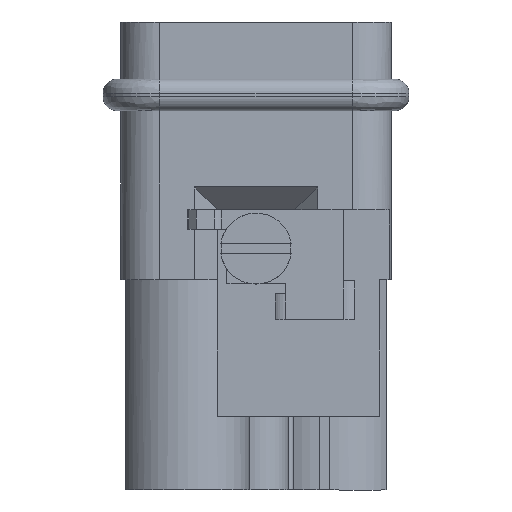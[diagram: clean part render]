
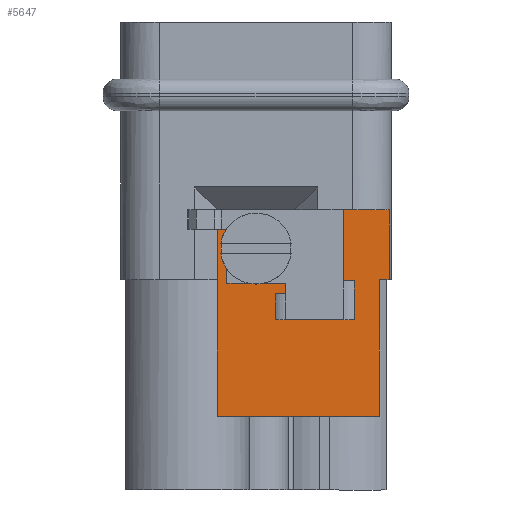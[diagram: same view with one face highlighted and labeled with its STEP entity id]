
A CAD part, left-side view. The second image highlights one B-rep face of the part: STEP entity #5647.
In plain terms, the highlighted planar face has unit normal (-1, 0, 0).
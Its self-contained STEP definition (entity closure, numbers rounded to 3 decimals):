
#3180=FACE_OUTER_BOUND('',#6586,.T.);
#3596=PLANE('',#12832);
#3892=LINE('',#16142,#4702);
#3926=LINE('',#16298,#4736);
#4167=LINE('',#17485,#4977);
#4168=LINE('',#17488,#4978);
#4169=LINE('',#17490,#4979);
#4170=LINE('',#17491,#4980);
#4171=LINE('',#17493,#4981);
#4172=LINE('',#17495,#4982);
#4173=LINE('',#17497,#4983);
#4174=LINE('',#17499,#4984);
#4175=LINE('',#17500,#4985);
#4176=LINE('',#17502,#4986);
#4177=LINE('',#17509,#4987);
#4178=LINE('',#17516,#4988);
#4179=LINE('',#17518,#4989);
#4702=VECTOR('',#13376,1.);
#4736=VECTOR('',#13458,1.);
#4977=VECTOR('',#14177,1.);
#4978=VECTOR('',#14178,1.);
#4979=VECTOR('',#14179,1.);
#4980=VECTOR('',#14180,1.);
#4981=VECTOR('',#14181,1.);
#4982=VECTOR('',#14182,1.);
#4983=VECTOR('',#14183,1.);
#4984=VECTOR('',#14184,1.);
#4985=VECTOR('',#14185,1.);
#4986=VECTOR('',#14186,1.);
#4987=VECTOR('',#14187,1.);
#4988=VECTOR('',#14188,1.);
#4989=VECTOR('',#14189,1.);
#5647=ADVANCED_FACE('',(#3180),#3596,.F.);
#6586=EDGE_LOOP('',(#8041,#8042,#8043,#8044,#8045,#8046,#8047,#8048,#8049,
#8050,#8051,#8052,#8053,#8054,#8055,#8056,#8057,#8058,#8059));
#8041=ORIENTED_EDGE('',*,*,#11130,.T.);
#8042=ORIENTED_EDGE('',*,*,#11131,.T.);
#8043=ORIENTED_EDGE('',*,*,#11132,.F.);
#8044=ORIENTED_EDGE('',*,*,#11124,.F.);
#8045=ORIENTED_EDGE('',*,*,#11121,.F.);
#8046=ORIENTED_EDGE('',*,*,#11133,.F.);
#8047=ORIENTED_EDGE('',*,*,#11134,.F.);
#8048=ORIENTED_EDGE('',*,*,#11135,.F.);
#8049=ORIENTED_EDGE('',*,*,#11136,.F.);
#8050=ORIENTED_EDGE('',*,*,#11137,.F.);
#8051=ORIENTED_EDGE('',*,*,#10718,.F.);
#8052=ORIENTED_EDGE('',*,*,#10661,.F.);
#8053=ORIENTED_EDGE('',*,*,#11138,.T.);
#8054=ORIENTED_EDGE('',*,*,#11139,.T.);
#8055=ORIENTED_EDGE('',*,*,#11140,.T.);
#8056=ORIENTED_EDGE('',*,*,#11141,.T.);
#8057=ORIENTED_EDGE('',*,*,#11142,.T.);
#8058=ORIENTED_EDGE('',*,*,#11143,.F.);
#8059=ORIENTED_EDGE('',*,*,#11144,.T.);
#9771=VERTEX_POINT('',#16141);
#9772=VERTEX_POINT('',#16143);
#9821=VERTEX_POINT('',#16299);
#10088=VERTEX_POINT('',#17456);
#10089=VERTEX_POINT('',#17461);
#10091=VERTEX_POINT('',#17475);
#10094=VERTEX_POINT('',#17486);
#10095=VERTEX_POINT('',#17487);
#10096=VERTEX_POINT('',#17489);
#10097=VERTEX_POINT('',#17492);
#10098=VERTEX_POINT('',#17494);
#10099=VERTEX_POINT('',#17496);
#10100=VERTEX_POINT('',#17498);
#10101=VERTEX_POINT('',#17501);
#10102=VERTEX_POINT('',#17503);
#10103=VERTEX_POINT('',#17508);
#10104=VERTEX_POINT('',#17510);
#10105=VERTEX_POINT('',#17515);
#10106=VERTEX_POINT('',#17517);
#10661=EDGE_CURVE('',#9771,#9772,#3892,.T.);
#10718=EDGE_CURVE('',#9772,#9821,#3926,.T.);
#11121=EDGE_CURVE('',#10088,#10089,#11883,.T.);
#11124=EDGE_CURVE('',#10089,#10091,#11885,.T.);
#11130=EDGE_CURVE('',#10094,#10095,#4167,.T.);
#11131=EDGE_CURVE('',#10095,#10096,#4168,.T.);
#11132=EDGE_CURVE('',#10091,#10096,#4169,.T.);
#11133=EDGE_CURVE('',#10097,#10088,#4170,.T.);
#11134=EDGE_CURVE('',#10098,#10097,#4171,.T.);
#11135=EDGE_CURVE('',#10099,#10098,#4172,.T.);
#11136=EDGE_CURVE('',#10100,#10099,#4173,.T.);
#11137=EDGE_CURVE('',#9821,#10100,#4174,.T.);
#11138=EDGE_CURVE('',#9771,#10101,#4175,.T.);
#11139=EDGE_CURVE('',#10101,#10102,#4176,.T.);
#11140=EDGE_CURVE('',#10102,#10103,#11886,.T.);
#11141=EDGE_CURVE('',#10103,#10104,#4177,.T.);
#11142=EDGE_CURVE('',#10104,#10105,#11887,.T.);
#11143=EDGE_CURVE('',#10106,#10105,#4178,.T.);
#11144=EDGE_CURVE('',#10106,#10094,#4179,.T.);
#11883=B_SPLINE_CURVE_WITH_KNOTS('',3,(#17457,#17458,#17459,#17460),
 .UNSPECIFIED.,.F.,.F.,(4,4),(0.,1.),.UNSPECIFIED.);
#11885=B_SPLINE_CURVE_WITH_KNOTS('',3,(#17471,#17472,#17473,#17474),
 .UNSPECIFIED.,.F.,.F.,(4,4),(0.,1.),.UNSPECIFIED.);
#11886=B_SPLINE_CURVE_WITH_KNOTS('',3,(#17504,#17505,#17506,#17507),
 .UNSPECIFIED.,.F.,.F.,(4,4),(0.,1.),.UNSPECIFIED.);
#11887=B_SPLINE_CURVE_WITH_KNOTS('',3,(#17511,#17512,#17513,#17514),
 .UNSPECIFIED.,.F.,.F.,(4,4),(0.,1.),.UNSPECIFIED.);
#12832=AXIS2_PLACEMENT_3D('',#17519,#14190,#14191);
#13376=DIRECTION('',(0.,-1.,0.));
#13458=DIRECTION('',(0.,0.,-1.));
#14177=DIRECTION('',(0.,1.,0.));
#14178=DIRECTION('',(0.,0.,1.));
#14179=DIRECTION('',(0.,-1.,0.));
#14180=DIRECTION('',(0.,1.,0.));
#14181=DIRECTION('',(0.,1.,0.));
#14182=DIRECTION('',(0.,1.,0.));
#14183=DIRECTION('',(0.,0.,-1.));
#14184=DIRECTION('',(0.,1.,0.));
#14185=DIRECTION('',(0.,0.,-1.));
#14186=DIRECTION('',(0.,-1.,0.));
#14187=DIRECTION('',(0.,1.,0.));
#14188=DIRECTION('',(0.,1.,0.));
#14189=DIRECTION('',(0.,0.,1.));
#14190=DIRECTION('',(1.,0.,0.));
#14191=DIRECTION('',(0.,1.,0.));
#16141=CARTESIAN_POINT('',(-8.45,-6.8,3.));
#16142=CARTESIAN_POINT('',(-8.45,-10.312,3.));
#16143=CARTESIAN_POINT('',(-8.45,-10.312,3.));
#16298=CARTESIAN_POINT('',(-8.45,-10.312,3.));
#16299=CARTESIAN_POINT('',(-8.45,-10.312,-2.4));
#17456=CARTESIAN_POINT('',(-8.45,2.999,-13.));
#17457=CARTESIAN_POINT('',(-8.45,2.999,-13.));
#17458=CARTESIAN_POINT('',(-8.45,2.999,-9.467));
#17459=CARTESIAN_POINT('',(-8.45,3.,-5.933));
#17460=CARTESIAN_POINT('',(-8.45,3.,-2.4));
#17461=CARTESIAN_POINT('',(-8.45,3.,-2.4));
#17471=CARTESIAN_POINT('',(-8.451,3.,-2.4));
#17472=CARTESIAN_POINT('',(-8.451,3.,-1.1));
#17473=CARTESIAN_POINT('',(-8.451,3.,0.2));
#17474=CARTESIAN_POINT('',(-8.451,3.,1.5));
#17475=CARTESIAN_POINT('',(-8.451,3.,1.5));
#17485=CARTESIAN_POINT('',(-8.45,-14.54,-2.7));
#17486=CARTESIAN_POINT('',(-8.45,-2.3,-2.7));
#17487=CARTESIAN_POINT('',(-8.45,2.25,-2.7));
#17488=CARTESIAN_POINT('',(-8.45,2.25,-25.492));
#17489=CARTESIAN_POINT('',(-8.45,2.25,1.5));
#17490=CARTESIAN_POINT('',(-8.45,-14.54,1.5));
#17491=CARTESIAN_POINT('',(-8.45,-14.54,-13.));
#17492=CARTESIAN_POINT('',(-8.45,-2.65,-13.));
#17493=CARTESIAN_POINT('',(-8.45,-14.54,-13.));
#17494=CARTESIAN_POINT('',(-8.45,-6.45,-13.));
#17495=CARTESIAN_POINT('',(-8.45,-9.55,-13.));
#17496=CARTESIAN_POINT('',(-8.45,-9.55,-13.));
#17497=CARTESIAN_POINT('',(-8.45,-9.55,-2.4));
#17498=CARTESIAN_POINT('',(-8.45,-9.55,-2.4));
#17499=CARTESIAN_POINT('',(-8.45,-10.312,-2.4));
#17500=CARTESIAN_POINT('',(-8.45,-6.8,-25.492));
#17501=CARTESIAN_POINT('',(-8.45,-6.8,-2.5));
#17502=CARTESIAN_POINT('',(-8.45,-14.54,-2.5));
#17503=CARTESIAN_POINT('',(-8.45,-7.619,-2.5));
#17504=CARTESIAN_POINT('',(-8.45,-7.619,-2.5));
#17505=CARTESIAN_POINT('',(-8.45,-7.619,-3.5));
#17506=CARTESIAN_POINT('',(-8.45,-7.619,-4.5));
#17507=CARTESIAN_POINT('',(-8.45,-7.619,-5.5));
#17508=CARTESIAN_POINT('',(-8.45,-7.619,-5.5));
#17509=CARTESIAN_POINT('',(-8.45,-14.54,-5.5));
#17510=CARTESIAN_POINT('',(-8.45,-1.481,-5.5));
#17511=CARTESIAN_POINT('',(-8.45,-1.481,-5.5));
#17512=CARTESIAN_POINT('',(-8.45,-1.481,-4.833));
#17513=CARTESIAN_POINT('',(-8.45,-1.481,-4.167));
#17514=CARTESIAN_POINT('',(-8.45,-1.481,-3.5));
#17515=CARTESIAN_POINT('',(-8.45,-1.481,-3.5));
#17516=CARTESIAN_POINT('',(-8.45,-14.54,-3.5));
#17517=CARTESIAN_POINT('',(-8.45,-2.3,-3.5));
#17518=CARTESIAN_POINT('',(-8.45,-2.3,-25.492));
#17519=CARTESIAN_POINT('',(-8.45,-14.54,-25.492));
